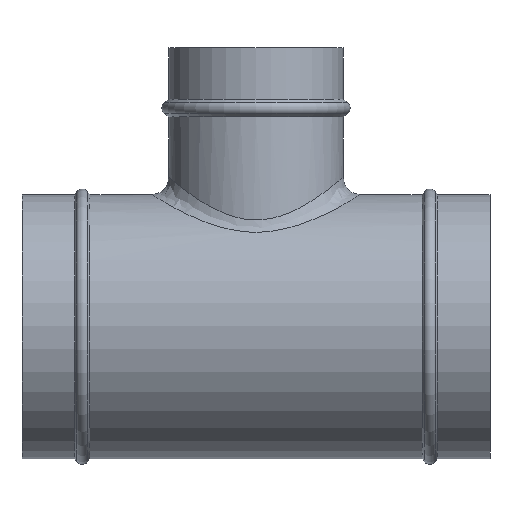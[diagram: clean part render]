
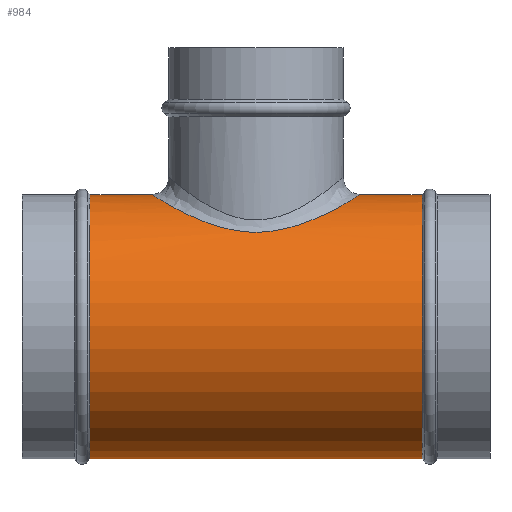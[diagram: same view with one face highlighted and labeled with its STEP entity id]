
A CAD part, top view. The second image highlights one B-rep face of the part: STEP entity #984.
In plain terms, the highlighted cylindrical face has radius 76.75 mm (diameter 153.5 mm), a partial arc.
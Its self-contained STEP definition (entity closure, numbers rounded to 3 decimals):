
#214=CARTESIAN_POINT('',(-60.75,76.75,
0.));
#215=CARTESIAN_POINT('',(-60.75,76.75,2.414));
#216=CARTESIAN_POINT('',(-60.383,76.522,7.286));
#217=CARTESIAN_POINT('',(-58.66,75.462,14.657));
#218=CARTESIAN_POINT('',(-55.663,73.656,22.027));
#219=CARTESIAN_POINT('',(-51.173,71.044,29.394));
#220=CARTESIAN_POINT('',(-45.034,67.686,36.452));
#221=CARTESIAN_POINT('',(-37.33,63.863,42.76));
#222=CARTESIAN_POINT('',(-28.26,60.077,47.862));
#223=CARTESIAN_POINT('',(-19.563,57.31,51.083));
#224=CARTESIAN_POINT('',(-11.37,55.563,52.956));
#225=CARTESIAN_POINT('',(-3.73,54.755,53.782));
#226=CARTESIAN_POINT('',(3.743,54.755,53.781));
#227=CARTESIAN_POINT('',(11.384,55.565,52.954));
#228=CARTESIAN_POINT('',(19.575,57.314,51.079));
#229=CARTESIAN_POINT('',(28.26,60.077,47.862));
#230=CARTESIAN_POINT('',(37.335,63.866,42.756));
#231=CARTESIAN_POINT('',(45.032,67.685,36.453));
#232=CARTESIAN_POINT('',(51.171,71.043,29.396));
#233=CARTESIAN_POINT('',(55.663,73.656,22.027));
#234=CARTESIAN_POINT('',(58.66,75.462,14.657));
#235=CARTESIAN_POINT('',(60.383,76.522,7.287));
#236=CARTESIAN_POINT('',(60.75,76.75,2.414));
#237=CARTESIAN_POINT('',(60.75,76.75,0.));
#242=CARTESIAN_POINT('',(96.534,0.,0.));
#243=DIRECTION('',(1.,0.,0.));
#244=DIRECTION('',(0.,1.,0.));
#245=AXIS2_PLACEMENT_3D('',#242,#243,#244);
#250=CARTESIAN_POINT('',(-96.534,0.,0.));
#251=DIRECTION('',(1.,0.,0.));
#252=DIRECTION('',(0.,1.,0.));
#253=AXIS2_PLACEMENT_3D('',#250,#251,#252);
#324=CARTESIAN_POINT('',(60.75,76.75,0.));
#347=CARTESIAN_POINT('',(-60.75,76.75,
0.));
#352=DIRECTION('',(-1.,0.,0.));
#353=VECTOR('',#352,35.784);
#354=CARTESIAN_POINT('',(-60.75,76.75,
0.));
#355=LINE('',#354,#353);
#367=DIRECTION('',(-1.,0.,0.));
#368=VECTOR('',#367,193.067);
#369=CARTESIAN_POINT('',(96.534,-76.75,0.));
#370=LINE('',#369,#368);
#382=DIRECTION('',(-1.,0.,0.));
#383=VECTOR('',#382,35.784);
#384=CARTESIAN_POINT('',(96.534,76.75,0.));
#385=LINE('',#384,#383);
#817=CARTESIAN_POINT('',(96.534,76.75,0.));
#818=CARTESIAN_POINT('',(96.534,-76.75,0.));
#819=VERTEX_POINT('',#817);
#820=VERTEX_POINT('',#818);
#821=CARTESIAN_POINT('',(-96.534,76.75,0.));
#822=CARTESIAN_POINT('',(-96.534,-76.75,0.));
#823=VERTEX_POINT('',#821);
#824=VERTEX_POINT('',#822);
#857=VERTEX_POINT('',#324);
#858=VERTEX_POINT('',#347);
#965=CARTESIAN_POINT('',(-149.6,0.,0.));
#966=DIRECTION('',(1.,0.,0.));
#967=DIRECTION('',(0.,-1.,0.));
#968=AXIS2_PLACEMENT_3D('',#965,#966,#967);
#969=CYLINDRICAL_SURFACE('',#968,76.75);
#971=ORIENTED_EDGE('',*,*,#970,.T.);
#973=ORIENTED_EDGE('',*,*,#972,.F.);
#975=ORIENTED_EDGE('',*,*,#974,.T.);
#977=ORIENTED_EDGE('',*,*,#976,.T.);
#979=ORIENTED_EDGE('',*,*,#978,.F.);
#981=ORIENTED_EDGE('',*,*,#980,.F.);
#982=EDGE_LOOP('',(#971,#973,#975,#977,#979,#981));
#983=FACE_OUTER_BOUND('',#982,.F.);
#238=B_SPLINE_CURVE_WITH_KNOTS('',3,(#214,#215,#216,#217,#218,#219,#220,#221,
#222,#223,#224,#225,#226,#227,#228,#229,#230,#231,#232,#233,#234,#235,#236,
#237),.UNSPECIFIED.,.F.,.F.,(4,1,1,1,1,1,1,1,1,1,1,1,1,1,1,1,1,1,1,1,1,4),(0.,
0.048,0.095,0.143,0.19,
0.238,0.286,0.333,0.381,
0.429,0.476,0.524,0.571,
0.619,0.667,0.714,0.762,
0.81,0.857,0.905,0.952,1.),
.UNSPECIFIED.);
#246=CIRCLE('',#245,76.75);
#254=CIRCLE('',#253,76.75);
#970=EDGE_CURVE('',#858,#857,#238,.T.);
#972=EDGE_CURVE('',#819,#857,#385,.T.);
#974=EDGE_CURVE('',#819,#820,#246,.T.);
#976=EDGE_CURVE('',#820,#824,#370,.T.);
#978=EDGE_CURVE('',#823,#824,#254,.T.);
#980=EDGE_CURVE('',#858,#823,#355,.T.);
#984=ADVANCED_FACE('',(#983),#969,.T.);
